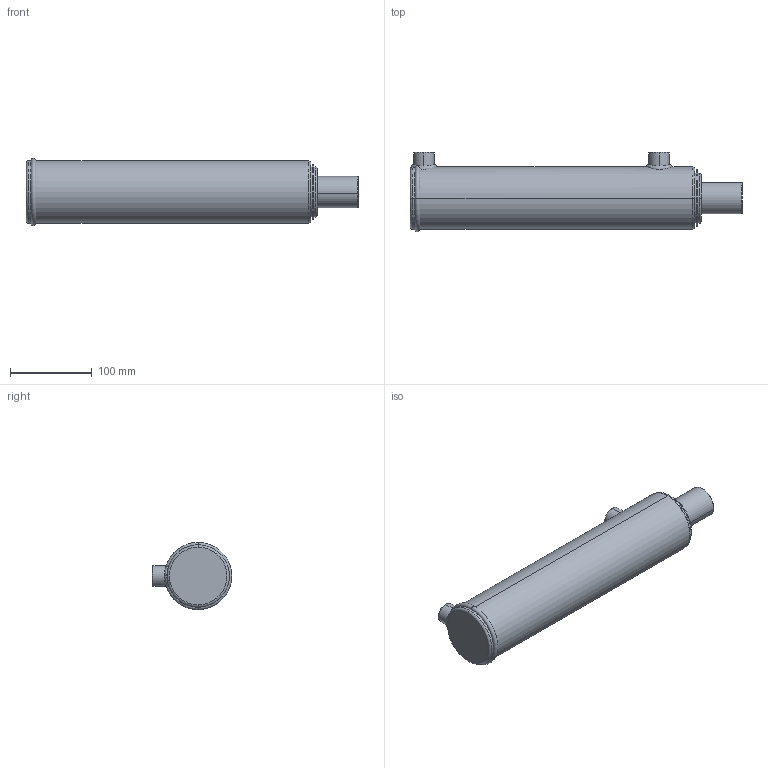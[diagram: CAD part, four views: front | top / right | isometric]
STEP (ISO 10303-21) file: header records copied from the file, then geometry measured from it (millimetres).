
FILE_DESCRIPTION (( 'STEP AP203' ), '1' );
FILE_NAME ('BL250150x254 (10).STEP', '2014-11-25T01:08:26', ( '' ), ( '' ), 'SwSTEP 2.0', 'SolidWorks 2014', '' );
FILE_SCHEMA (( 'CONFIG_CONTROL_DESIGN' ));
Length unit declared in the file: millimetre
Products named in the file (3): BL body 2.5_2.5x10; Spare_2.5x10; BL250150x254 (10)
Assembly tree (2 placements, depth 2):
  BL250150x254 (10)
    BL body 2.5_2.5x10
    Spare_2.5x10
Bounding box: 405 x 97.2 x 82.2 mm (x, y, z)
Volume: 1739019.8 mm3; surface area: 173970.2 mm2
Topology: 2 solids, 2 shells, 88 faces, 205 edges, 126 vertices
Faces by surface type: cylinder 32, plane 20, torus 18, bspline 10, cone 8
Entity records: 5772 total; most frequent: CARTESIAN_POINT 3521, DIRECTION 422, ORIENTED_EDGE 402, EDGE_CURVE 201, AXIS2_PLACEMENT_3D 182, VERTEX_POINT 126, EDGE_LOOP 101, CIRCLE 99
